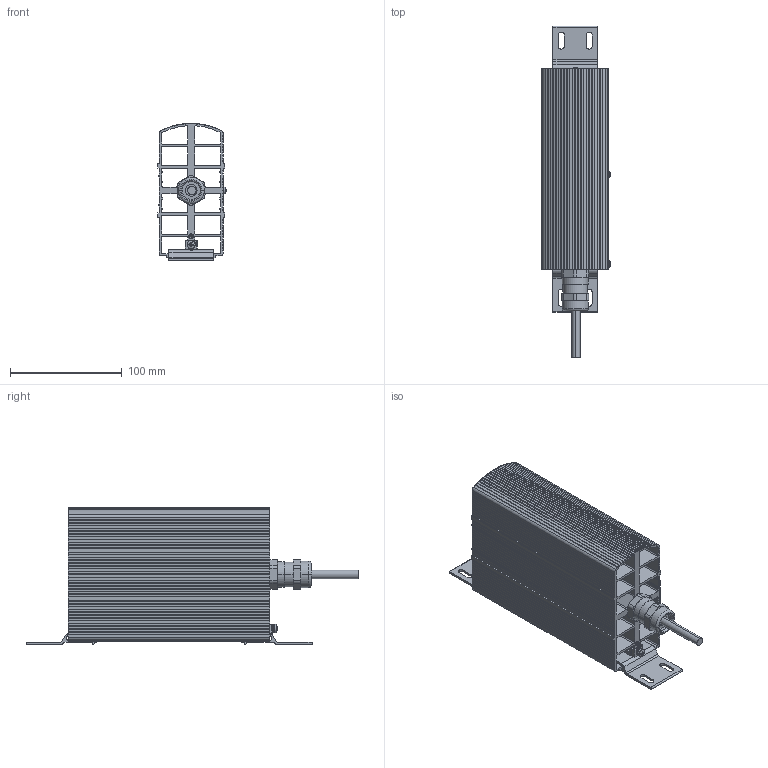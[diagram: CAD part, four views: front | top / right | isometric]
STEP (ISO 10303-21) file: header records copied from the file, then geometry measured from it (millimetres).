
FILE_DESCRIPTION (( 'STEP AP214' ), '1' );
FILE_NAME ('02042.x-1x_Ex-Heizgeraet.STEP', '2017-08-09T09:09:17', ( '' ), ( '' ), 'SwSTEP 2.0', 'SolidWorks 2017', '' );
FILE_SCHEMA (( 'AUTOMOTIVE_DESIGN' ));
Length unit declared in the file: millimetre
Products named in the file (1): 02042.x-1x_Ex-Heizgeraet
Bounding box: 61.42 x 297 x 122.8 mm (x, y, z)
Surface area: 262076.7 mm2 (no closed solid volume)
Topology: 0 solids, 12 shells, 691 faces, 2621 edges, 1810 vertices
Faces by surface type: plane 489, cylinder 160, cone 29, torus 6, sphere 6, bspline 1
Entity records: 35273 total; most frequent: CARTESIAN_POINT 5830, ORIENTED_EDGE 4414, DIRECTION 4305, EDGE_CURVE 2621, VECTOR 2081, LINE 2081, VERTEX_POINT 1810, AXIS2_PLACEMENT_3D 1112
